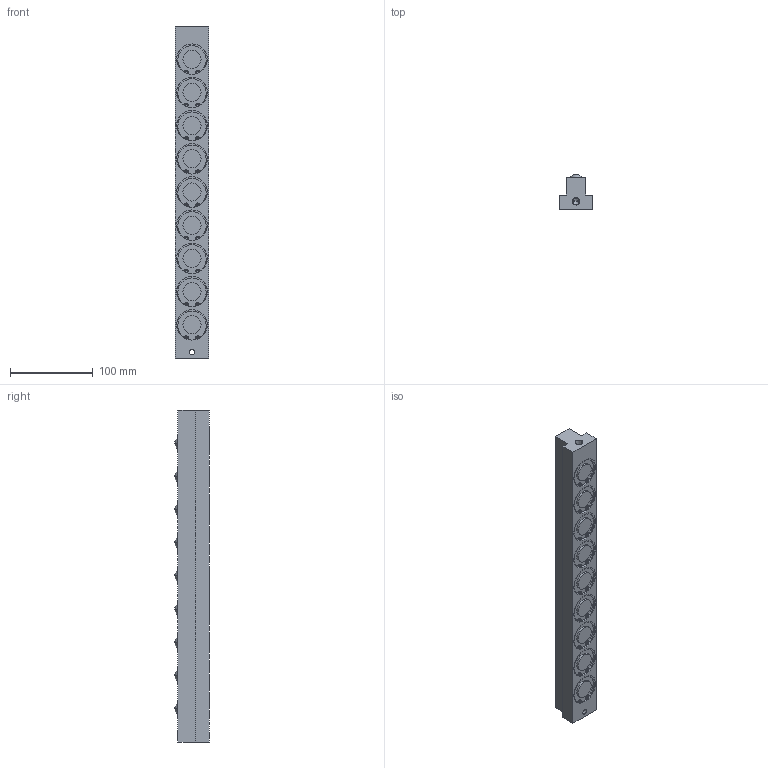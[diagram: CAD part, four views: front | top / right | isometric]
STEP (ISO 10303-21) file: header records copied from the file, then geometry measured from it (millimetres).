
FILE_DESCRIPTION (( 'STEP AP203' ), '1' );
FILE_NAME ('PVL30T-9.STEP', '2015-12-24T08:28:19', ( '' ), ( '' ), 'SwSTEP 2.0', 'SolidWorks 2013', '' );
FILE_SCHEMA (( 'CONFIG_CONTROL_DESIGN' ));
Length unit declared in the file: millimetre
Products named in the file (1): PVL30T-9
Bounding box: 40 x 42 x 400 mm (x, y, z)
Volume: 452144.8 mm3; surface area: 76597.1 mm2
Topology: 1 solids, 1 shells, 301 faces, 763 edges, 510 vertices
Faces by surface type: cylinder 186, plane 93, sphere 18, cone 4
Entity records: 9406 total; most frequent: DIRECTION 1831, CARTESIAN_POINT 1573, ORIENTED_EDGE 1522, AXIS2_PLACEMENT_3D 768, EDGE_CURVE 761, VERTEX_POINT 510, CIRCLE 466, EDGE_LOOP 351
